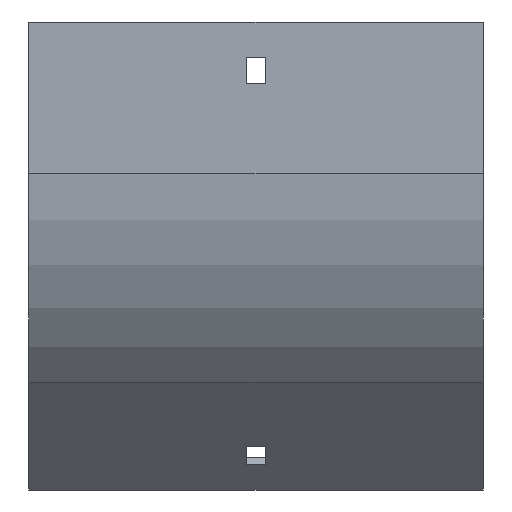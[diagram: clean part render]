
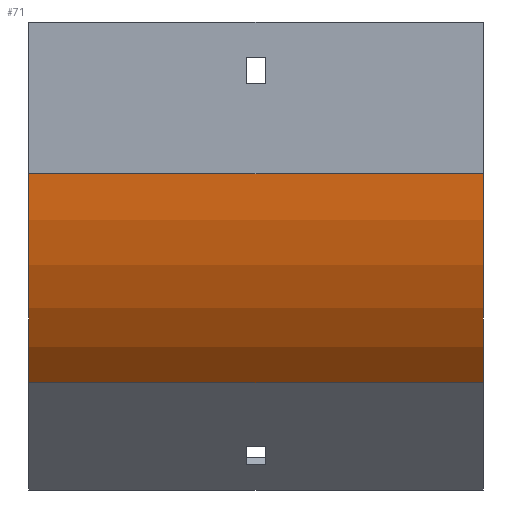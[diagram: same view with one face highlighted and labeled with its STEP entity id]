
A CAD part, front view. The second image highlights one B-rep face of the part: STEP entity #71.
In plain terms, the highlighted cylindrical face has radius 100 mm (diameter 200 mm), a partial arc.
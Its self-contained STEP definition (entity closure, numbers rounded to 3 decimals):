
#10 = LINE ( 'NONE', #320, #1203 ) ;
#36 = ORIENTED_EDGE ( 'NONE', *, *, #553, .T. ) ;
#66 = CIRCLE ( 'NONE', #1054, 100. ) ;
#71 = ADVANCED_FACE ( 'NONE', ( #1051 ), #948, .T. ) ;
#121 = EDGE_CURVE ( 'NONE', #1239, #598, #852, .T. ) ;
#123 = CARTESIAN_POINT ( 'NONE',  ( -77., 48., -51.539 ) ) ;
#182 = CARTESIAN_POINT ( 'NONE',  ( -77., -52., -51.539 ) ) ;
#209 = DIRECTION ( 'NONE',  ( 1., 0., 0. ) ) ;
#253 = EDGE_CURVE ( 'NONE', #788, #1338, #66, .T. ) ;
#256 = DIRECTION ( 'NONE',  ( 1., 0., 0. ) ) ;
#305 = AXIS2_PLACEMENT_3D ( 'NONE', #505, #955, #1376 ) ;
#320 = CARTESIAN_POINT ( 'NONE',  ( 77., -52., -51.539 ) ) ;
#324 = ORIENTED_EDGE ( 'NONE', *, *, #445, .F. ) ;
#445 = EDGE_CURVE ( 'NONE', #1338, #598, #1050, .T. ) ;
#486 = ORIENTED_EDGE ( 'NONE', *, *, #121, .T. ) ;
#505 = CARTESIAN_POINT ( 'NONE',  ( 77., 48., -51.539 ) ) ;
#553 = EDGE_CURVE ( 'NONE', #788, #1239, #10, .T. ) ;
#559 = CARTESIAN_POINT ( 'NONE',  ( 77., 48., -51.539 ) ) ;
#598 = VERTEX_POINT ( 'NONE', #733 ) ;
#695 = DIRECTION ( 'NONE',  ( 0., 0., 1. ) ) ;
#733 = CARTESIAN_POINT ( 'NONE',  ( -77., -22.711, -122.25 ) ) ;
#788 = VERTEX_POINT ( 'NONE', #814 ) ;
#814 = CARTESIAN_POINT ( 'NONE',  ( 77., -52., -51.539 ) ) ;
#833 = DIRECTION ( 'NONE',  ( -1., 0., 0. ) ) ;
#852 = CIRCLE ( 'NONE', #1322, 100. ) ;
#948 = CYLINDRICAL_SURFACE ( 'NONE', #305, 100. ) ;
#955 = DIRECTION ( 'NONE',  ( -1., 0., 0. ) ) ;
#1050 = LINE ( 'NONE', #1248, #1241 ) ;
#1051 = FACE_OUTER_BOUND ( 'NONE', #1324, .T. ) ;
#1054 = AXIS2_PLACEMENT_3D ( 'NONE', #559, #256, #695 ) ;
#1097 = CARTESIAN_POINT ( 'NONE',  ( 77., -22.711, -122.25 ) ) ;
#1203 = VECTOR ( 'NONE', #1270, 1000. ) ;
#1239 = VERTEX_POINT ( 'NONE', #182 ) ;
#1241 = VECTOR ( 'NONE', #833, 1000. ) ;
#1248 = CARTESIAN_POINT ( 'NONE',  ( 77., -22.711, -122.25 ) ) ;
#1270 = DIRECTION ( 'NONE',  ( -1., 0., 0. ) ) ;
#1275 = ORIENTED_EDGE ( 'NONE', *, *, #253, .F. ) ;
#1297 = DIRECTION ( 'NONE',  ( 0., 0., 1. ) ) ;
#1322 = AXIS2_PLACEMENT_3D ( 'NONE', #123, #209, #1297 ) ;
#1324 = EDGE_LOOP ( 'NONE', ( #486, #324, #1275, #36 ) ) ;
#1338 = VERTEX_POINT ( 'NONE', #1097 ) ;
#1376 = DIRECTION ( 'NONE',  ( 0., 0., 1. ) ) ;
